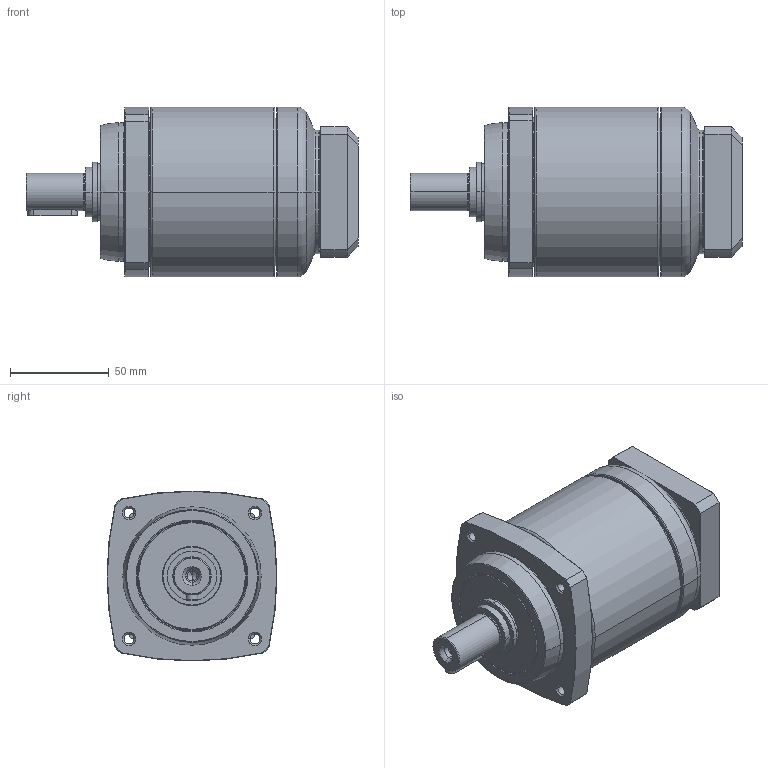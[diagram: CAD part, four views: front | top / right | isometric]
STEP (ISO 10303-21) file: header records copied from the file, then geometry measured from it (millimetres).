
FILE_DESCRIPTION((''),'2;1');
FILE_NAME('PS2-C_2ST_14-P0411300101_ASM','2016-05-23T',('d01943'),(''),'PRO/ENGINEER BY PARAMETRIC TECHNOLOGY CORPORATION, 2008410','PRO/ENGINEER BY PARAMETRIC TECHNOLOGY CORPORATION, 2008410','');
FILE_SCHEMA(('CONFIG_CONTROL_DESIGN'));
Length unit declared in the file: millimetre
Products named in the file (9): P1328310001; P0251300001; P1324300001; P0350301401; P0941300001; P0503300005; P0411300101; P1702300001; PS2-C_2ST_14-P0411300101_ASM
Assembly tree (8 placements, depth 2):
  PS2-C_2ST_14-P0411300101_ASM
    P1328310001
    P0251300001
    P1324300001
    P0350301401
    P0941300001
    P0503300005
    P0411300101
    P1702300001
Bounding box: 168 x 86 x 86 mm (x, y, z)
Volume: 489778.1 mm3; surface area: 120610.2 mm2
Topology: 8 solids, 8 shells, 485 faces, 1061 edges, 616 vertices
Faces by surface type: cone 152, cylinder 143, torus 92, plane 80, bspline 18
Entity records: 17869 total; most frequent: CARTESIAN_POINT 6922, DIRECTION 2496, ORIENTED_EDGE 2082, AXIS2_PLACEMENT_3D 1078, EDGE_CURVE 1041, VERTEX_POINT 616, CIRCLE 594, EDGE_LOOP 553
